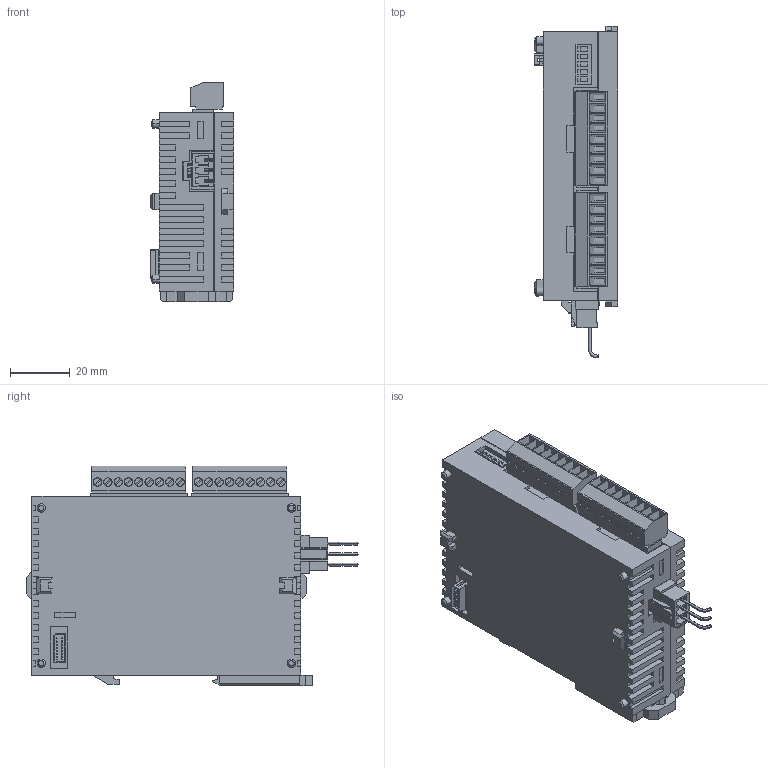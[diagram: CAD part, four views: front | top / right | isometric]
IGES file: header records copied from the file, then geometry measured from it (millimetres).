
Global section: organization: PanasonicElectricWorks; date: 080828.133517; units: millimetre
Bounding box: 28 x 111.19 x 73.45 mm (x, y, z)
Surface area: 27406.8 mm2 (no closed solid volume)
Topology: 0 solids, 0 shells, 1026 faces, 7237 edges, 7235 vertices
Faces by surface type: bspline 943, revolution 83
